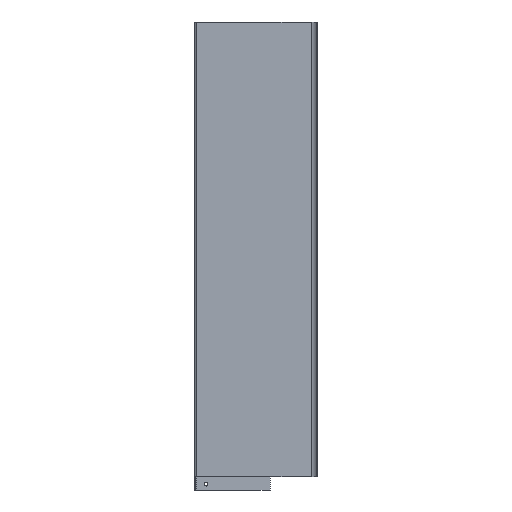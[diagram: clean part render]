
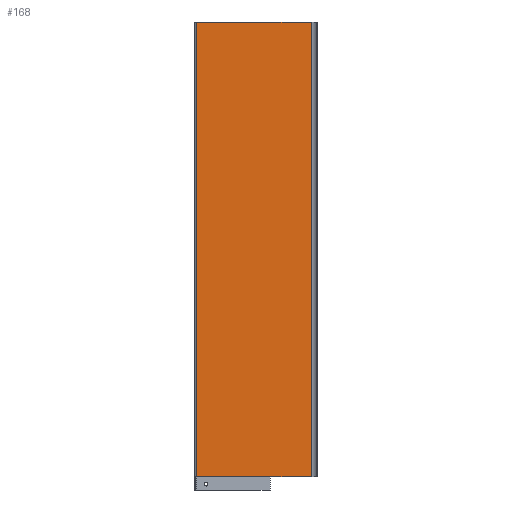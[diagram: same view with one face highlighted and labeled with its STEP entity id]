
A CAD part, left-side view. The second image highlights one B-rep face of the part: STEP entity #168.
In plain terms, the highlighted planar face has unit normal (-1, 0, 0).
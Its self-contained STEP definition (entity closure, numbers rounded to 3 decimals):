
#20 = EDGE_LOOP ( 'NONE', ( #700, #524, #567, #550 ) ) ;
#42 = VERTEX_POINT ( 'NONE', #183 ) ;
#146 = EDGE_CURVE ( 'NONE', #554, #209, #777, .T. ) ;
#168 = ADVANCED_FACE ( 'NONE', ( #406 ), #620, .F. ) ;
#183 = CARTESIAN_POINT ( 'NONE',  ( -8., 14.6, 0. ) ) ;
#184 = DIRECTION ( 'NONE',  ( 0., 1., 0. ) ) ;
#209 = VERTEX_POINT ( 'NONE', #862 ) ;
#248 = DIRECTION ( 'NONE',  ( 0., 1., 0. ) ) ;
#278 = CARTESIAN_POINT ( 'NONE',  ( -8., 14.6, -629. ) ) ;
#295 = DIRECTION ( 'NONE',  ( 1., 0., 0. ) ) ;
#353 = DIRECTION ( 'NONE',  ( 0., -1., 0. ) ) ;
#394 = LINE ( 'NONE', #484, #741 ) ;
#406 = FACE_OUTER_BOUND ( 'NONE', #20, .T. ) ;
#419 = DIRECTION ( 'NONE',  ( 0., 0., 1. ) ) ;
#441 = LINE ( 'NONE', #519, #812 ) ;
#450 = CARTESIAN_POINT ( 'NONE',  ( -8., -144.438, -799.403 ) ) ;
#484 = CARTESIAN_POINT ( 'NONE',  ( -8., 14.6, -799.403 ) ) ;
#519 = CARTESIAN_POINT ( 'NONE',  ( -8., -144.438, 0. ) ) ;
#524 = ORIENTED_EDGE ( 'NONE', *, *, #811, .T. ) ;
#550 = ORIENTED_EDGE ( 'NONE', *, *, #621, .F. ) ;
#554 = VERTEX_POINT ( 'NONE', #278 ) ;
#567 = ORIENTED_EDGE ( 'NONE', *, *, #822, .T. ) ;
#590 = VECTOR ( 'NONE', #353, 1000. ) ;
#615 = CARTESIAN_POINT ( 'NONE',  ( -8., -144.438, -799.403 ) ) ;
#620 = PLANE ( 'NONE',  #679 ) ;
#621 = EDGE_CURVE ( 'NONE', #554, #42, #394, .T. ) ;
#627 = CARTESIAN_POINT ( 'NONE',  ( -8., -144.438, -629. ) ) ;
#632 = VECTOR ( 'NONE', #861, 1000. ) ;
#646 = CARTESIAN_POINT ( 'NONE',  ( -8., -144.438, 0. ) ) ;
#679 = AXIS2_PLACEMENT_3D ( 'NONE', #615, #295, #248 ) ;
#700 = ORIENTED_EDGE ( 'NONE', *, *, #146, .T. ) ;
#741 = VECTOR ( 'NONE', #419, 1000. ) ;
#749 = VERTEX_POINT ( 'NONE', #646 ) ;
#777 = LINE ( 'NONE', #627, #590 ) ;
#811 = EDGE_CURVE ( 'NONE', #209, #749, #815, .T. ) ;
#812 = VECTOR ( 'NONE', #184, 1000. ) ;
#815 = LINE ( 'NONE', #450, #632 ) ;
#822 = EDGE_CURVE ( 'NONE', #749, #42, #441, .T. ) ;
#861 = DIRECTION ( 'NONE',  ( 0., 0., 1. ) ) ;
#862 = CARTESIAN_POINT ( 'NONE',  ( -8., -144.438, -629. ) ) ;
